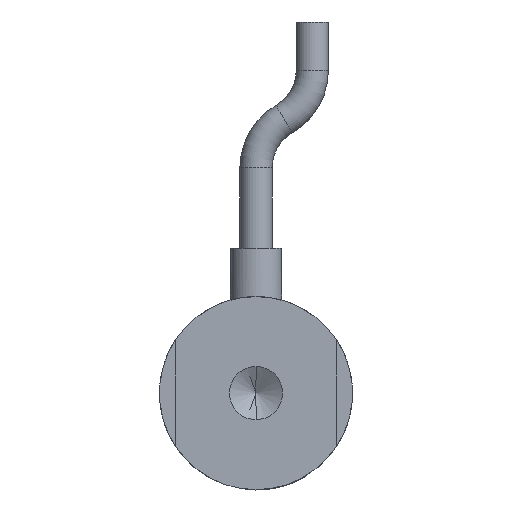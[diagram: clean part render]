
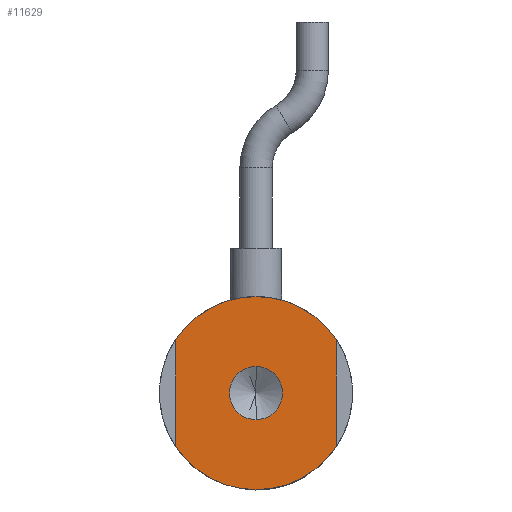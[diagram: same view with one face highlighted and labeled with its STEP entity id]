
A CAD part, front view. The second image highlights one B-rep face of the part: STEP entity #11629.
In plain terms, the highlighted planar face has unit normal (0, -1, 0).
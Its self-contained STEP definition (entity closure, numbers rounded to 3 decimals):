
#119 = CARTESIAN_POINT ( 'NONE',  ( 0., 0., 0. ) ) ;
#313 = VERTEX_POINT ( 'NONE', #14011 ) ;
#591 = DIRECTION ( 'NONE',  ( 0., 0., 1. ) ) ;
#1273 = ORIENTED_EDGE ( 'NONE', *, *, #33456, .F. ) ;
#2684 = CARTESIAN_POINT ( 'NONE',  ( -5., 0., 3.317 ) ) ;
#2813 = LINE ( 'NONE', #38841, #3978 ) ;
#2864 = EDGE_CURVE ( 'NONE', #8160, #5486, #30499, .T. ) ;
#3177 = CIRCLE ( 'NONE', #8857, 6. ) ;
#3855 = DIRECTION ( 'NONE',  ( 0., 0., 1. ) ) ;
#3978 = VECTOR ( 'NONE', #18162, 1000. ) ;
#5349 = EDGE_CURVE ( 'NONE', #6931, #313, #43594, .T. ) ;
#5486 = VERTEX_POINT ( 'NONE', #43147 ) ;
#6101 = AXIS2_PLACEMENT_3D ( 'NONE', #19489, #43556, #23020 ) ;
#6931 = VERTEX_POINT ( 'NONE', #24933 ) ;
#7074 = DIRECTION ( 'NONE',  ( 0., 1., 0. ) ) ;
#8160 = VERTEX_POINT ( 'NONE', #30359 ) ;
#8598 = CARTESIAN_POINT ( 'NONE',  ( 0., 0., 0. ) ) ;
#8835 = AXIS2_PLACEMENT_3D ( 'NONE', #25060, #25014, #24972 ) ;
#8857 = AXIS2_PLACEMENT_3D ( 'NONE', #119, #25421, #3855 ) ;
#8972 = CARTESIAN_POINT ( 'NONE',  ( -5., 0., 0. ) ) ;
#9668 = EDGE_LOOP ( 'NONE', ( #16452, #29550 ) ) ;
#10427 = DIRECTION ( 'NONE',  ( 0., 0., 1. ) ) ;
#10572 = DIRECTION ( 'NONE',  ( 0., 1., 0. ) ) ;
#10662 = CARTESIAN_POINT ( 'NONE',  ( 0., 0., 0. ) ) ;
#11313 = EDGE_CURVE ( 'NONE', #22097, #32840, #2813, .T. ) ;
#11629 = ADVANCED_FACE ( 'NONE', ( #16553, #25894 ), #42037, .F. ) ;
#12011 = EDGE_LOOP ( 'NONE', ( #29076, #44364, #24164, #13728, #38378, #1273 ) ) ;
#12354 = DIRECTION ( 'NONE',  ( 0., 0., 1. ) ) ;
#12855 = DIRECTION ( 'NONE',  ( 0., 0., 1. ) ) ;
#13728 = ORIENTED_EDGE ( 'NONE', *, *, #11313, .F. ) ;
#14011 = CARTESIAN_POINT ( 'NONE',  ( -5., 0., -3.317 ) ) ;
#14787 = VERTEX_POINT ( 'NONE', #2684 ) ;
#15643 = AXIS2_PLACEMENT_3D ( 'NONE', #42880, #22349, #591 ) ;
#16452 = ORIENTED_EDGE ( 'NONE', *, *, #2864, .F. ) ;
#16553 = FACE_BOUND ( 'NONE', #9668, .T. ) ;
#16586 = CARTESIAN_POINT ( 'NONE',  ( 5., 0., -3.317 ) ) ;
#18162 = DIRECTION ( 'NONE',  ( 0., 0., -1. ) ) ;
#19143 = LINE ( 'NONE', #8972, #28379 ) ;
#19489 = CARTESIAN_POINT ( 'NONE',  ( 0., 0., 0. ) ) ;
#19772 = EDGE_CURVE ( 'NONE', #32840, #6931, #22513, .T. ) ;
#20321 = AXIS2_PLACEMENT_3D ( 'NONE', #41135, #7074, #31883 ) ;
#22006 = EDGE_CURVE ( 'NONE', #313, #14787, #19143, .T. ) ;
#22097 = VERTEX_POINT ( 'NONE', #27457 ) ;
#22349 = DIRECTION ( 'NONE',  ( 0., 1., 0. ) ) ;
#22513 = CIRCLE ( 'NONE', #44006, 6. ) ;
#23020 = DIRECTION ( 'NONE',  ( 0., 0., -1. ) ) ;
#23436 = VERTEX_POINT ( 'NONE', #38813 ) ;
#24164 = ORIENTED_EDGE ( 'NONE', *, *, #19772, .F. ) ;
#24933 = CARTESIAN_POINT ( 'NONE',  ( 0., 0., -6. ) ) ;
#24972 = DIRECTION ( 'NONE',  ( 0., 0., -1. ) ) ;
#25014 = DIRECTION ( 'NONE',  ( 0., -1., 0. ) ) ;
#25060 = CARTESIAN_POINT ( 'NONE',  ( 0., 0., 0. ) ) ;
#25421 = DIRECTION ( 'NONE',  ( 0., 1., 0. ) ) ;
#25894 = FACE_OUTER_BOUND ( 'NONE', #12011, .T. ) ;
#27457 = CARTESIAN_POINT ( 'NONE',  ( 5., 0., 3.317 ) ) ;
#28379 = VECTOR ( 'NONE', #12855, 1000. ) ;
#29076 = ORIENTED_EDGE ( 'NONE', *, *, #22006, .F. ) ;
#29394 = CIRCLE ( 'NONE', #6101, 1.65 ) ;
#29550 = ORIENTED_EDGE ( 'NONE', *, *, #35094, .F. ) ;
#30359 = CARTESIAN_POINT ( 'NONE',  ( 0., 0., -1.65 ) ) ;
#30499 = CIRCLE ( 'NONE', #8835, 1.65 ) ;
#31883 = DIRECTION ( 'NONE',  ( 0., 0., 1. ) ) ;
#31970 = AXIS2_PLACEMENT_3D ( 'NONE', #10662, #10572, #10427 ) ;
#32840 = VERTEX_POINT ( 'NONE', #16586 ) ;
#33258 = DIRECTION ( 'NONE',  ( 0., 1., 0. ) ) ;
#33456 = EDGE_CURVE ( 'NONE', #14787, #23436, #3177, .T. ) ;
#35094 = EDGE_CURVE ( 'NONE', #5486, #8160, #29394, .T. ) ;
#37245 = EDGE_CURVE ( 'NONE', #23436, #22097, #44931, .T. ) ;
#38378 = ORIENTED_EDGE ( 'NONE', *, *, #37245, .F. ) ;
#38813 = CARTESIAN_POINT ( 'NONE',  ( 0., 0., 6. ) ) ;
#38841 = CARTESIAN_POINT ( 'NONE',  ( 5., 0., 0. ) ) ;
#41135 = CARTESIAN_POINT ( 'NONE',  ( 0., 0., 0. ) ) ;
#42037 = PLANE ( 'NONE',  #20321 ) ;
#42880 = CARTESIAN_POINT ( 'NONE',  ( 0., 0., 0. ) ) ;
#43147 = CARTESIAN_POINT ( 'NONE',  ( 0., 0., 1.65 ) ) ;
#43556 = DIRECTION ( 'NONE',  ( 0., -1., 0. ) ) ;
#43594 = CIRCLE ( 'NONE', #31970, 6. ) ;
#44006 = AXIS2_PLACEMENT_3D ( 'NONE', #8598, #33258, #12354 ) ;
#44364 = ORIENTED_EDGE ( 'NONE', *, *, #5349, .F. ) ;
#44931 = CIRCLE ( 'NONE', #15643, 6. ) ;
